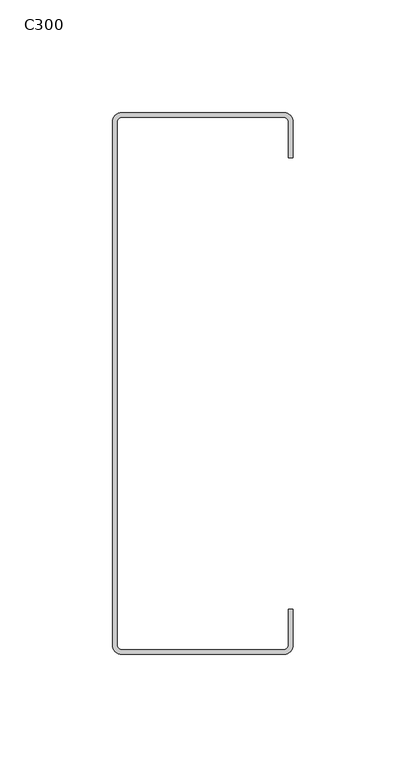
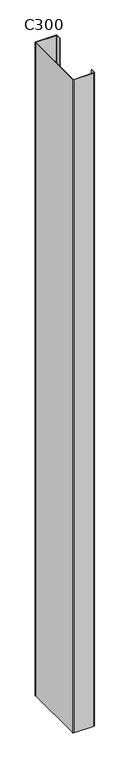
"""IFC4 building model written with IfcOpenShell, lengths in millimetres: column geometry, Тонкостенная-C-колонна : C300."""

from ifc_helpers import new_model, si_unit, point, frame_2d, origin, origin_with_axes, place, context, project, spatial, polyline, circle_curve, trimmed, segment, composite_curve, outline, extrude, source, transform, mapped, element, save


def c300_2f88b8a5(model_context):
    return source(origin(), model_context, "Body", "SweptSolid", [
        extrude(outline(composite_curve([segment(trimmed(circle_curve(frame_2d((76.0, -116.0)), 4.0), [point((80.0, -116.0))], [point((76.0, -120.0))], False, "CARTESIAN"), True, "CONTINUOUS"), segment(polyline([(76.0, -120.0), (4.0, -120.0)]), True, "CONTINUOUS"), segment(trimmed(circle_curve(frame_2d((4.0, -116.0)), 4.0), [point((4.0, -120.0))], [point((0.0, -116.0))], False, "CARTESIAN"), True, "CONTINUOUS"), segment(polyline([(0.0, -116.0), (0.0, 116.0)]), True, "CONTINUOUS"), segment(trimmed(circle_curve(frame_2d((4.0, 116.0)), 4.0), [point((0.0, 116.0))], [point((4.0, 120.0))], False, "CARTESIAN"), True, "CONTINUOUS"), segment(polyline([(4.0, 120.0), (76.0, 120.0)]), True, "CONTINUOUS"), segment(trimmed(circle_curve(frame_2d((76.0, 116.0)), 4.0), [point((76.0, 120.0))], [point((80.0, 116.0))], False, "CARTESIAN"), True, "CONTINUOUS"), segment(polyline([(80.0, 116.0), (80.0, 100.0), (78.0, 100.0), (78.0, 116.0)]), True, "CONTINUOUS"), segment(trimmed(circle_curve(frame_2d((76.0, 116.0)), 2.0), [point((78.0, 116.0))], [point((76.0, 118.0))], True, "CARTESIAN"), True, "CONTINUOUS"), segment(polyline([(76.0, 118.0), (4.0, 118.0)]), True, "CONTINUOUS"), segment(trimmed(circle_curve(frame_2d((4.0, 116.0)), 2.0), [point((4.0, 118.0))], [point((2.0, 116.0))], True, "CARTESIAN"), True, "CONTINUOUS"), segment(polyline([(2.0, 116.0), (2.0, -116.0)]), True, "CONTINUOUS"), segment(trimmed(circle_curve(frame_2d((4.0, -116.0)), 2.0), [point((2.0, -116.0))], [point((4.0, -118.0))], True, "CARTESIAN"), True, "CONTINUOUS"), segment(polyline([(4.0, -118.0), (76.0, -118.0)]), True, "CONTINUOUS"), segment(trimmed(circle_curve(frame_2d((76.0, -116.0)), 2.0), [point((76.0, -118.0))], [point((78.0, -116.0))], True, "CARTESIAN"), True, "CONTINUOUS"), segment(polyline([(78.0, -116.0), (78.0, -100.0), (80.0, -100.0), (80.0, -116.0)]), True, "CONTINUOUS")], self_intersect=False)), origin_with_axes(), (0.0, 0.0, 1.0), 2500.0),
    ])


if __name__ == "__main__":
    model = new_model("IFC4")
    model_context = context("Model", 3, world=origin())
    ifc_project = project(units=[si_unit("LENGTHUNIT", "METRE", prefix="MILLI")], contexts=[model_context])
    site = spatial("IfcSite", under=ifc_project)
    building = spatial("IfcBuilding", under=site)
    placement = place(None, origin())
    c300_shape = c300_2f88b8a5(model_context)
    element("IfcColumn", 1, ObjectType="Тонкостенная-C-колонна : C300", at=placement, inside=building, context=model_context, shape_type="MappedRepresentation", body=[
        mapped(c300_shape, transform((0.0, 0.0, 0.0), x_axis=(1.0, 0.0, 0.0), y_axis=(0.0, 1.0, 0.0), z_axis=(0.0, 0.0, 1.0))),
    ])
    save(model, "model.ifc")
